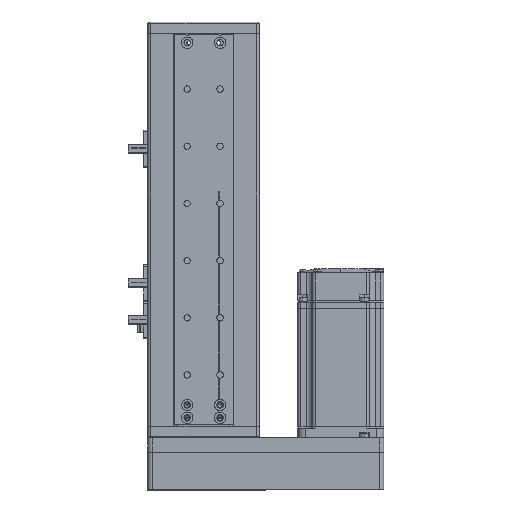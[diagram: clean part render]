
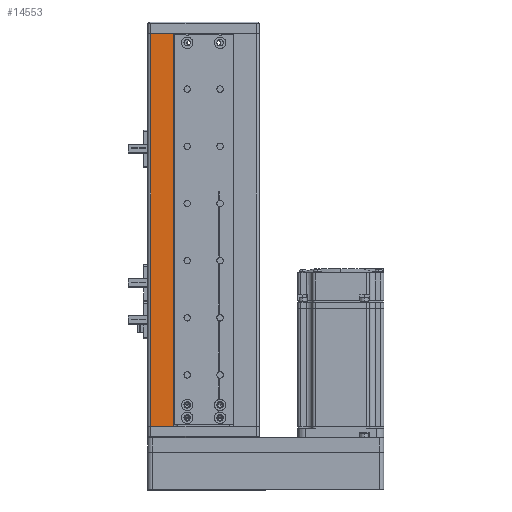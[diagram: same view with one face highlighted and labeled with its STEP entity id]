
A CAD part, front view. The second image highlights one B-rep face of the part: STEP entity #14553.
In plain terms, the highlighted planar face has unit normal (0, -1, 0) as drawn and (0, 0, 1) by its records, which use the part's own axes.
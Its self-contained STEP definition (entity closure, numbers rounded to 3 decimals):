
#295 = LINE ( 'NONE', #41691, #17586 ) ;
#1224 = DIRECTION ( 'NONE',  ( 1., 0., 0. ) ) ;
#5337 = VECTOR ( 'NONE', #9221, 1000. ) ;
#7098 = VERTEX_POINT ( 'NONE', #14551 ) ;
#9221 = DIRECTION ( 'NONE',  ( -1., 0., 0. ) ) ;
#11209 = AXIS2_PLACEMENT_3D ( 'NONE', #19466, #23042, #1224 ) ;
#11639 = EDGE_CURVE ( 'NONE', #16304, #41259, #32233, .T. ) ;
#13264 = CARTESIAN_POINT ( 'NONE',  ( -15.999, 274.8, -0.001 ) ) ;
#13450 = VECTOR ( 'NONE', #23385, 1000. ) ;
#13900 = VERTEX_POINT ( 'NONE', #13264 ) ;
#13908 = FACE_OUTER_BOUND ( 'NONE', #41601, .T. ) ;
#14551 = CARTESIAN_POINT ( 'NONE',  ( 0., 274.8, -0.001 ) ) ;
#14553 = ADVANCED_FACE ( 'NONE', ( #13908 ), #44432, .T. ) ;
#15735 = EDGE_CURVE ( 'NONE', #7098, #13900, #24678, .T. ) ;
#16304 = VERTEX_POINT ( 'NONE', #27194 ) ;
#16424 = CARTESIAN_POINT ( 'NONE',  ( -15.999, 0., -0.001 ) ) ;
#16904 = ORIENTED_EDGE ( 'NONE', *, *, #44334, .F. ) ;
#17586 = VECTOR ( 'NONE', #45317, 1000. ) ;
#19466 = CARTESIAN_POINT ( 'NONE',  ( 0., 274.8, -0.001 ) ) ;
#22726 = VECTOR ( 'NONE', #40782, 1000. ) ;
#22993 = LINE ( 'NONE', #33973, #13450 ) ;
#23042 = DIRECTION ( 'NONE',  ( 0., 0., 1. ) ) ;
#23385 = DIRECTION ( 'NONE',  ( 0., -1., 0. ) ) ;
#24678 = LINE ( 'NONE', #34365, #5337 ) ;
#27194 = CARTESIAN_POINT ( 'NONE',  ( 0., 0., -0.001 ) ) ;
#28274 = ORIENTED_EDGE ( 'NONE', *, *, #11639, .F. ) ;
#29674 = ORIENTED_EDGE ( 'NONE', *, *, #15735, .T. ) ;
#30077 = CARTESIAN_POINT ( 'NONE',  ( 0., 0., -0.001 ) ) ;
#32233 = LINE ( 'NONE', #30077, #22726 ) ;
#33973 = CARTESIAN_POINT ( 'NONE',  ( 0., 274.8, -0.001 ) ) ;
#34365 = CARTESIAN_POINT ( 'NONE',  ( 0., 274.8, -0.001 ) ) ;
#36872 = ORIENTED_EDGE ( 'NONE', *, *, #38718, .T. ) ;
#38718 = EDGE_CURVE ( 'NONE', #13900, #41259, #295, .T. ) ;
#40782 = DIRECTION ( 'NONE',  ( -1., 0., 0. ) ) ;
#41259 = VERTEX_POINT ( 'NONE', #16424 ) ;
#41601 = EDGE_LOOP ( 'NONE', ( #28274, #16904, #29674, #36872 ) ) ;
#41691 = CARTESIAN_POINT ( 'NONE',  ( -15.999, 274.8, -0.001 ) ) ;
#44334 = EDGE_CURVE ( 'NONE', #7098, #16304, #22993, .T. ) ;
#44432 = PLANE ( 'NONE',  #11209 ) ;
#45317 = DIRECTION ( 'NONE',  ( 0., -1., 0. ) ) ;
